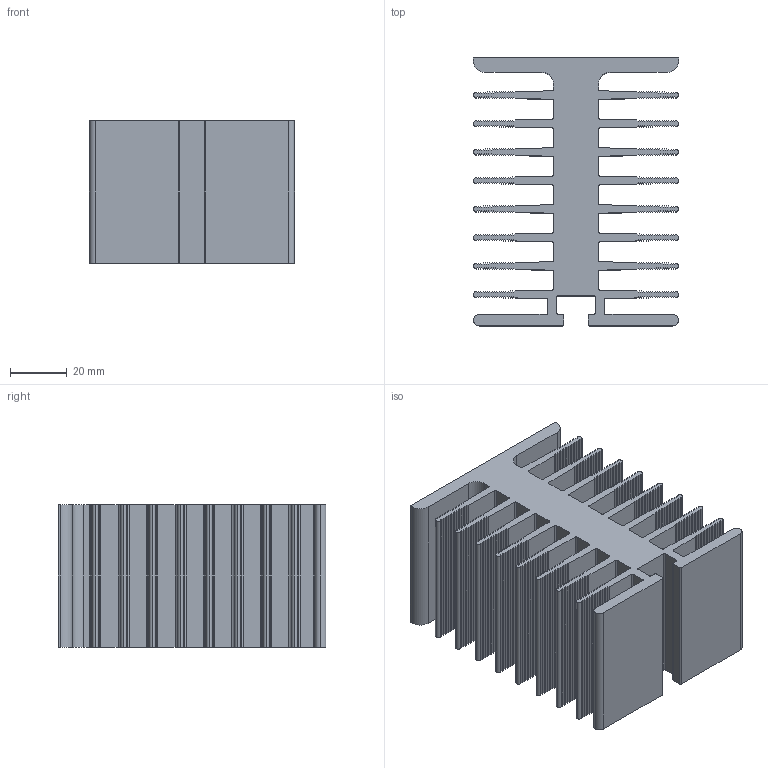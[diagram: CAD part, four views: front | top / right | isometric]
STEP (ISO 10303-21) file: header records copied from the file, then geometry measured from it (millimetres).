
FILE_DESCRIPTION (( 'STEP AP203' ), '1' );
FILE_NAME ('PR 227-50.step', '2002-10-21T08:28:49', ( 'Wolfgang Müller' ), ( 'DPS' ), 'SwSTEP 2.0', 'SolidWorks 2002264', '' );
FILE_SCHEMA (( 'CONFIG_CONTROL_DESIGN' ));
Length unit declared in the file: millimetre
Products named in the file (1): PR 227-50
Bounding box: 72 x 94 x 50 mm (x, y, z)
Volume: 145626.1 mm3; surface area: 80606.2 mm2
Topology: 1 solids, 1 shells, 1261 faces, 3777 edges, 2518 vertices
Faces by surface type: plane 1188, cylinder 73
Entity records: 41794 total; most frequent: CARTESIAN_POINT 7557, ORIENTED_EDGE 7554, DIRECTION 6447, EDGE_CURVE 3777, LINE 3631, VECTOR 3631, VERTEX_POINT 2518, AXIS2_PLACEMENT_3D 1408
